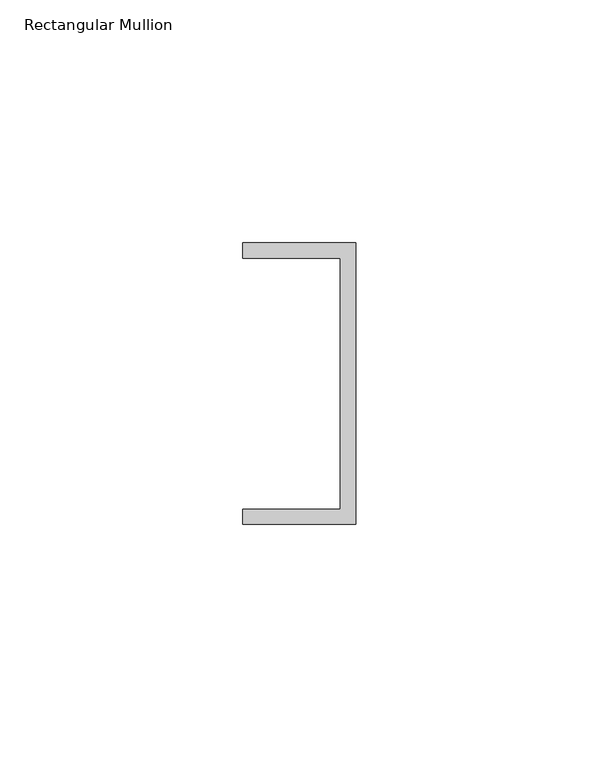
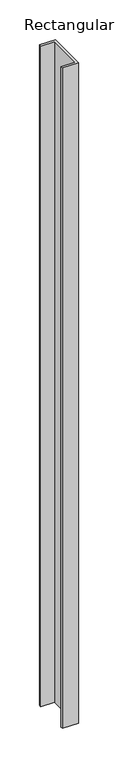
"""IFC4 building model written with IfcOpenShell, lengths in millimetres: member geometry, Rectangular Mullion : Frame-Teknion-Altos-Ceiling_Channel."""

from ifc_helpers import new_model, si_unit, frame, origin, place, context, project, spatial, polyline, outline, extrude, source, transform, mapped, element, save


def rectangular_mullion_a3734a60(model_context):
    return source(origin(), model_context, "Body", "SweptSolid", [
        extrude(outline(polyline([(0.0, 29.0214844), (0.0, -29.0214844), (-23.3164063, -29.0214844), (-23.3164063, -25.8464844), (-3.175, -25.8464844), (-3.175, 25.8464844), (-23.3164063, 25.8464844), (-23.3164063, 29.0214844), (0.0, 29.0214844)])), frame((0.0, 0.0, -1016.0), z_axis=(0.0, 0.0, 1.0), x_axis=(1.0, 0.0, 0.0)), (0.0, 0.0, 1.0), 1016.0),
    ])


if __name__ == "__main__":
    model = new_model("IFC4")
    model_context = context("Model", 3, world=origin())
    ifc_project = project(units=[si_unit("LENGTHUNIT", "METRE", prefix="MILLI")], contexts=[model_context])
    site = spatial("IfcSite", under=ifc_project)
    building = spatial("IfcBuilding", under=site)
    placement = place(None, origin())
    rectangular_mullion_shape = rectangular_mullion_a3734a60(model_context)
    element("IfcMember", 1, ObjectType="Rectangular Mullion : Frame-Teknion-Altos-Ceiling_Channel", at=placement, inside=building, context=model_context, shape_type="MappedRepresentation", body=[
        mapped(rectangular_mullion_shape, transform((0.0, 0.0, 0.0), x_axis=(1.0, 0.0, 0.0), y_axis=(0.0, 1.0, 0.0), z_axis=(0.0, 0.0, 1.0))),
    ])
    save(model, "model.ifc")
